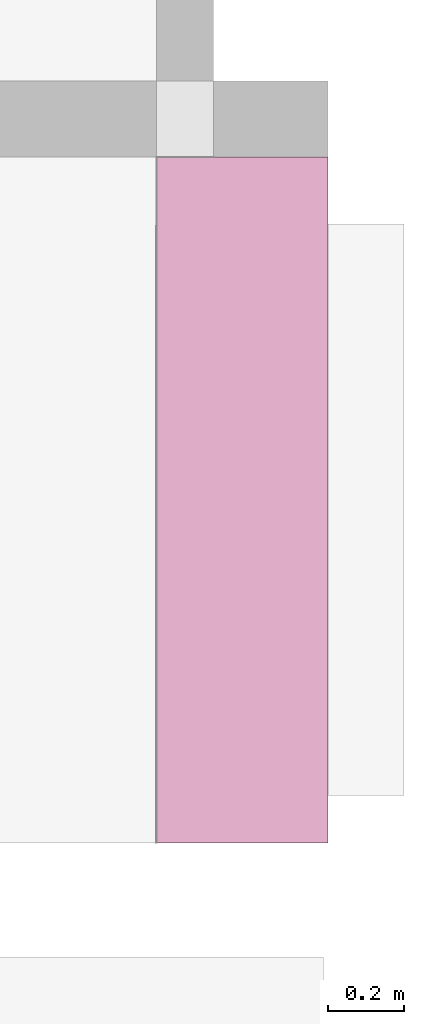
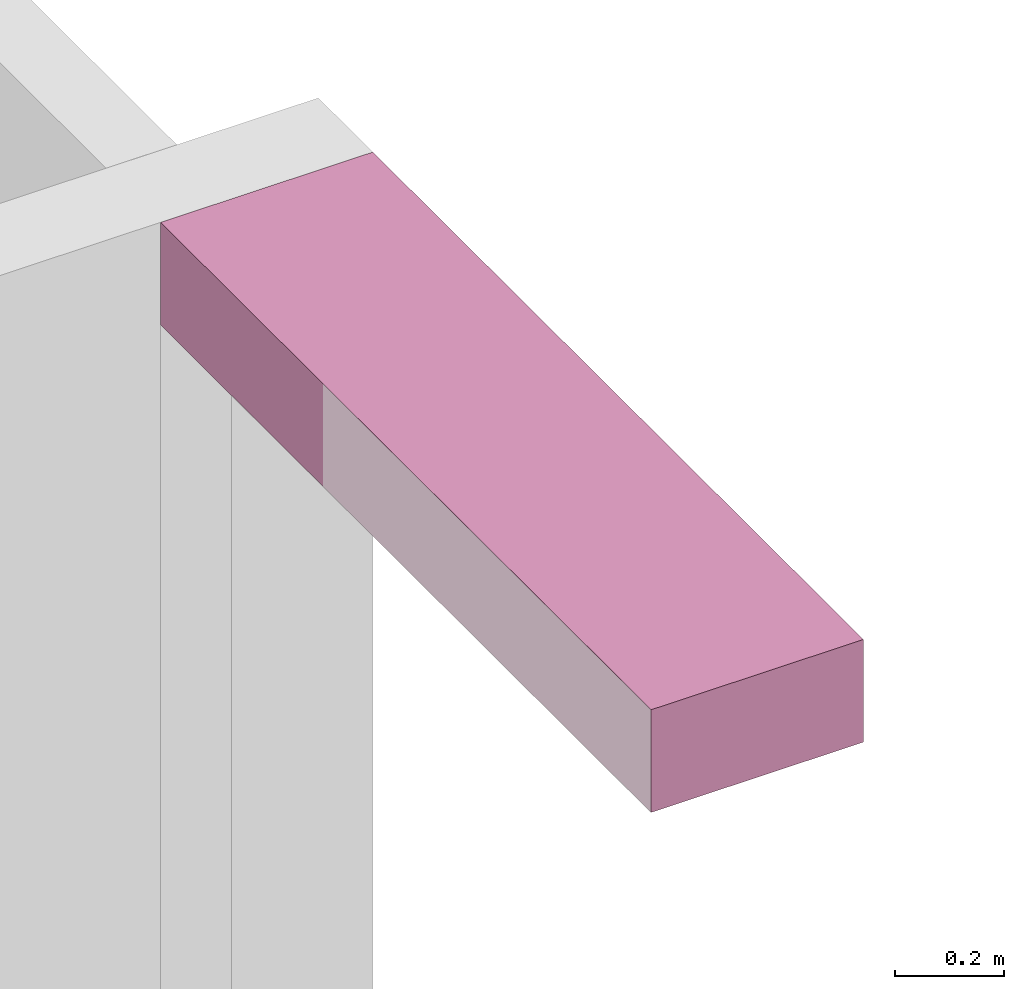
# One storey, part 9 of 9: 1 furniture element.
"""IFC4 building model written with IfcOpenShell, lengths in millimetres."""

from ifc_helpers import new_model, entity, si_unit, converted_unit, derived_unit, direction, frame, origin_with_axes, place, context, subcontext, project, spatial, polygons, material, type_object, element, save


model = new_model("IFC4")

# Units and contexts
model_context = context("Model", 3, precision=0.01, world=origin_with_axes(), true_north=direction((0.0, 1.0)))
body_context = subcontext(model_context, "Body", "Model", "MODEL_VIEW")
ifc_project = project(units=[si_unit("LENGTHUNIT", "METRE", prefix="MILLI"), si_unit("AREAUNIT", "SQUARE_METRE"), si_unit("VOLUMEUNIT", "CUBIC_METRE"), converted_unit("PLANEANGLEUNIT", "DEGREE", entity("IfcPlaneAngleMeasure", 0.0174532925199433), si_unit("PLANEANGLEUNIT", "RADIAN"), dimensions=[0, 0, 0, 0, 0, 0, 0]), converted_unit("TIMEUNIT", "Year", entity("IfcTimeMeasure", 31557600.0), si_unit("TIMEUNIT", "SECOND"), dimensions=[0, 0, 1, 0, 0, 0, 0]), si_unit("MASSUNIT", "GRAM", prefix="KILO"), si_unit("THERMODYNAMICTEMPERATUREUNIT", "DEGREE_CELSIUS"), si_unit("LUMINOUSINTENSITYUNIT", "LUMEN"), si_unit("ENERGYUNIT", "JOULE", prefix="MEGA"), derived_unit("THERMALCONDUCTANCEUNIT", [(si_unit("POWERUNIT", "WATT"), 1), (si_unit("LENGTHUNIT", "METRE"), -1), (si_unit("THERMODYNAMICTEMPERATUREUNIT", "KELVIN"), -1)]), derived_unit("SPECIFICHEATCAPACITYUNIT", [(si_unit("ENERGYUNIT", "JOULE"), 1), (si_unit("MASSUNIT", "GRAM", prefix="KILO"), -1), (si_unit("THERMODYNAMICTEMPERATUREUNIT", "KELVIN"), -1)]), derived_unit("MASSDENSITYUNIT", [(si_unit("MASSUNIT", "GRAM", prefix="KILO"), 1), (si_unit("VOLUMEUNIT", "CUBIC_METRE"), -1)])], contexts=[model_context])

# Site, building, storey
site_placement = place(None, origin_with_axes())
site = spatial("IfcSite", under=ifc_project, at=site_placement, Name="Exteriér", CompositionType="ELEMENT")
building_placement = place(site_placement, origin_with_axes())
building = spatial("IfcBuilding", under=site, at=building_placement, Name="Univerzitní lezecké centrum", CompositionType="ELEMENT")
storey_placement = place(building_placement, origin_with_axes())
storey = spatial("IfcBuildingStorey", under=building, at=storey_placement, Name="1.NP", CompositionType="ELEMENT", Elevation=0.0)

# Furniture
ifc_material = material(Name="Keramické tvárnice nenosné tl. 150 mm")
furniture_type = type_object("IfcFurnitureType", Name="Keramické tvárnice nenosné tl. 150 mm 230", AssemblyPlace="NOTDEFINED", PredefinedType="NOTDEFINED")
furniture_placement = place(storey_placement, frame((10000.13172234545, 0.0, 2830.0), z_axis=(0.0, 0.0, 1.0), x_axis=(1.0, 0.0, 0.0)))
element("IfcFurniture", 1, at=furniture_placement, inside=storey, type_object=furniture_type, material=ifc_material, PredefinedType="NOTDEFINED", context=body_context, shape_type="Tessellation", body=[
    polygons([(0.0, 0.0, 0.0), (0.0, 0.0, -230.0000000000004), (449.7199265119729, 0.0, -230.0000000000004), (449.7199265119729, 0.0, 0.0), (0.0, 1800.48075613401, 0.0), (0.0, 1800.48075613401, -230.0000000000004), (449.7199265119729, 1800.48075613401, -230.0000000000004), (449.7199265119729, 1800.48075613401, 0.0)], [[[1, 2, 3, 4]], [[5, 6, 2, 1]], [[3, 2, 6, 7]], [[4, 3, 7, 8]], [[5, 1, 4, 8]], [[8, 7, 6, 5]]], closed=True),
])

save(model, "model.ifc")
